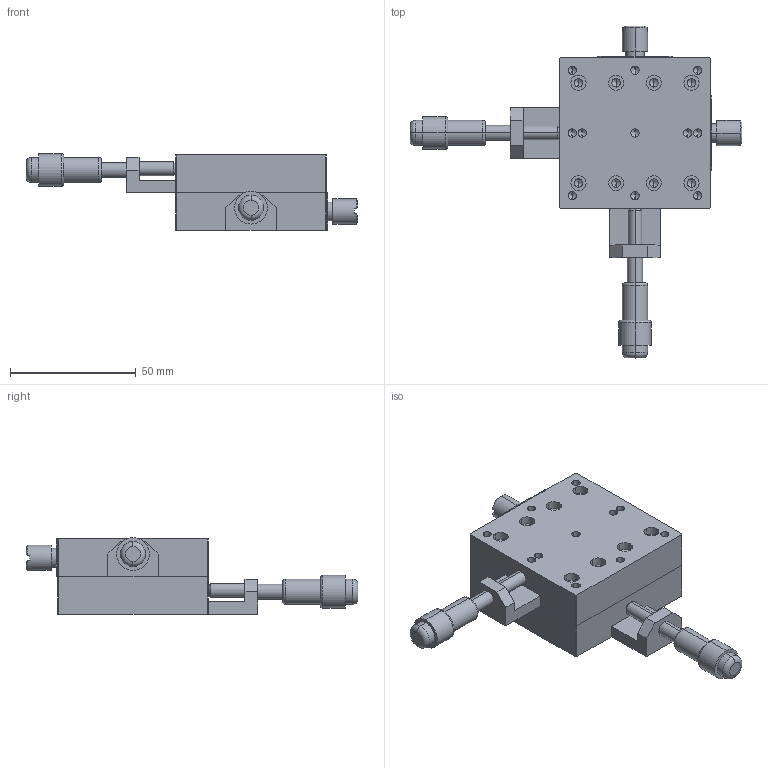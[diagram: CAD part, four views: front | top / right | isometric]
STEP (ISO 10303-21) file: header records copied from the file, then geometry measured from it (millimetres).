
FILE_DESCRIPTION (( 'STEP AP214' ), '1' );
FILE_NAME ('PT-XY60-C.STEP', '2022-09-04T09:26:46', ( '' ), ( '' ), 'SwSTEP 2.0', 'SolidWorks 2017', '' );
FILE_SCHEMA (( 'AUTOMOTIVE_DESIGN' ));
Length unit declared in the file: millimetre
Products named in the file (5): 蹟唅痀ん; PT-XY60C菁釱; PT-XY60-C; 唅聽; PT-XY60C菁釱2
Assembly tree (6 placements, depth 2):
  PT-XY60-C
    PT-XY60C菁釱2
    PT-XY60C菁釱
    蹟唅痀ん  x2
    唅聽  x2
Bounding box: 132.2 x 132.2 x 30.5 mm (x, y, z)
Volume: 116968.6 mm3; surface area: 34792.3 mm2
Topology: 8 solids, 8 shells, 306 faces, 710 edges, 433 vertices
Faces by surface type: cylinder 138, plane 108, cone 48, torus 12
Entity records: 7252 total; most frequent: DIRECTION 1293, CARTESIAN_POINT 1140, ORIENTED_EDGE 1064, EDGE_CURVE 532, AXIS2_PLACEMENT_3D 513, VERTEX_POINT 344, EDGE_LOOP 314, LINE 267
